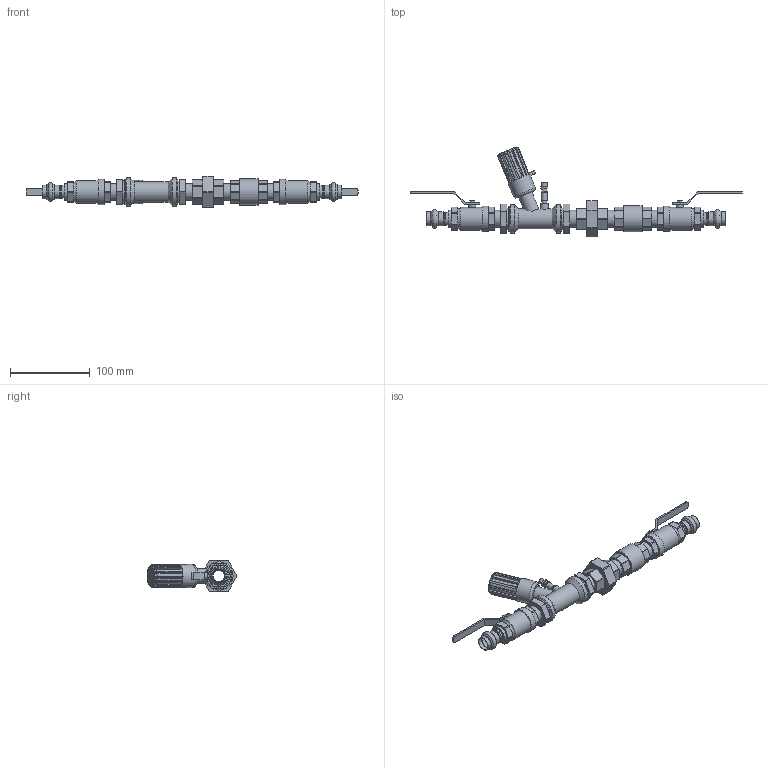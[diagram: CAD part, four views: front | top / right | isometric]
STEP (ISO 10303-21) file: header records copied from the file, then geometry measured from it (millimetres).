
FILE_DESCRIPTION(/* description */ ('VIC DOMESTIC WATER KIT FOR HYDRONIC BALANCING WITH PT PORT SERIES 7WT (CPF)','CAx-IF Rec.Pracs.---Representation and Presentation of Product Manufacturing Information (PMI)---4.0---2014-10-13'),/* implementation_level */ '2;1');
FILE_NAME(/* name */ 'C:\Users\kkamble\AppData\Roaming\Autodesk\ApplicationPlugins\Victaulic.Temp\A577\Victaulic_Domestic Water Kit for Hydronic Balancing With PT Port_Series 7WT (CPF)_PRS_0.5 (15).stp',/* time_stamp */ '2021-08-10T11:12:49+06:00',/* author */ ('kkamble'),/* organization */ ('Victaulic'),/* preprocessor_version */ 'ST-DEVELOPER v17.2',/* originating_system */ 'Autodesk Inventor 2019',/* authorisation */ '');
FILE_SCHEMA (('AP242_MANAGED_MODEL_BASED_3D_ENGINEERING_MIM_LF { 1 0 10303 442 1 1 4 }'));
Length unit declared in the file: inch
Products named in the file (7): 7WT_PRS-0.5; P596-0.5x0.5; 722L_Prs-0.5; Nipple_BR_386-0.5; 7TZ-0.5; Union_BR_386-0.5; Check_Valve_4133-0.5
Assembly tree (11 placements, depth 2):
  7WT_PRS-0.5
    P596-0.5x0.5  x2
    722L_Prs-0.5  x2
    Nipple_BR_386-0.5  x4
    7TZ-0.5
    Union_BR_386-0.5
    Check_Valve_4133-0.5
Bounding box: 416.05 x 112.59 x 39.62 mm (x, y, z)
Volume: 181272 mm3; surface area: 97423.8 mm2
Topology: 12 solids, 12 shells, 466 faces, 1274 edges, 876 vertices
Faces by surface type: plane 290, cylinder 126, torus 38, cone 12
Full cylindrical faces by diameter (mm): 3.81 x2, 5.08 x1, 6.35 x3, 7.62 x2, 8.763 x2, 10.16 x1, 14.453 x2, 15.138 x2, 15.799 x8, 15.875 x6, 15.9 x4, 17.297 x4, 17.78 x1, 21.336 x17, 25.4 x1, 27.432 x2, 28.567 x2, 29.21 x1, 31.496 x2, 31.75 x2, 33.02 x1, 35.56 x2
Entity records: 12446 total; most frequent: CARTESIAN_POINT 2549, DIRECTION 1977, ORIENTED_EDGE 1920, EDGE_CURVE 960, AXIS2_PLACEMENT_3D 723, VERTEX_POINT 653, LINE 531, VECTOR 531
